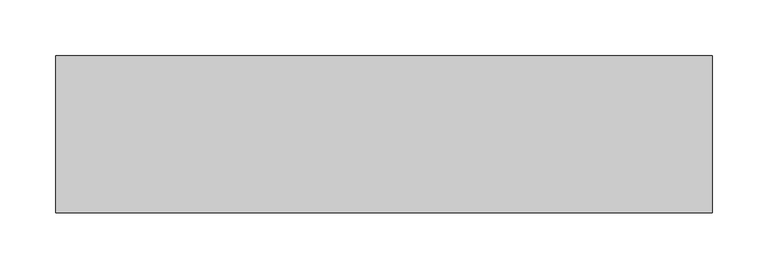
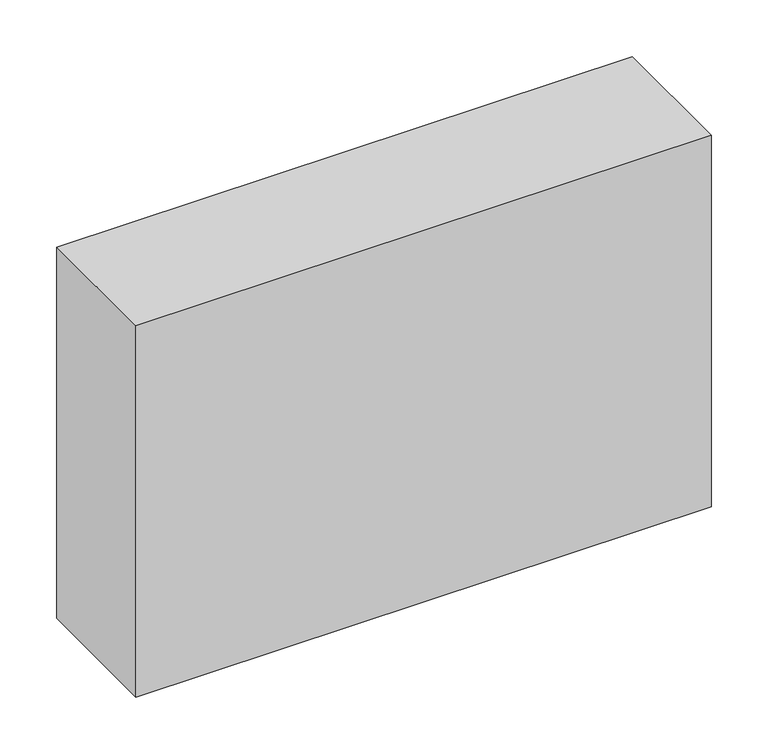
"""IFC4 building model written with IfcOpenShell, lengths in millimetres: proxy geometry."""

from ifc_helpers import new_model, si_unit, frame, origin, place, context, project, spatial, polyline, outline, extrude, source, transform, mapped, element, save


def structural_framing_9f2234e0(model_context):
    return source(origin(), model_context, "Body", "SweptSolid", [
        extrude(outline(polyline([(-293.15, -70.0), (-293.15, 70.0), (293.15, 70.0), (293.15, -70.0), (-293.15, -70.0)])), frame((0.0, 0.0, -400.0), z_axis=(0.0, 0.0, 1.0), x_axis=(1.0, 0.0, 0.0)), (0.0, 0.0, 1.0), 400.0),
    ])


if __name__ == "__main__":
    model = new_model("IFC4")
    model_context = context("Model", 3, world=origin())
    ifc_project = project(units=[si_unit("LENGTHUNIT", "METRE", prefix="MILLI")], contexts=[model_context])
    site = spatial("IfcSite", under=ifc_project)
    building = spatial("IfcBuilding", under=site)
    placement = place(None, origin())
    structural_framing_shape = structural_framing_9f2234e0(model_context)
    element("IfcBuildingElementProxy", 1, Name="Structural Framing", at=placement, inside=building, context=model_context, shape_type="MappedRepresentation", body=[
        mapped(structural_framing_shape, transform((0.0, 0.0, 0.0), x_axis=(1.0, 0.0, 0.0), y_axis=(0.0, 1.0, 0.0), z_axis=(0.0, 0.0, 1.0))),
    ])
    save(model, "model.ifc")
